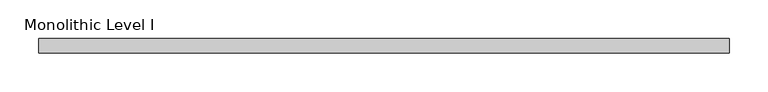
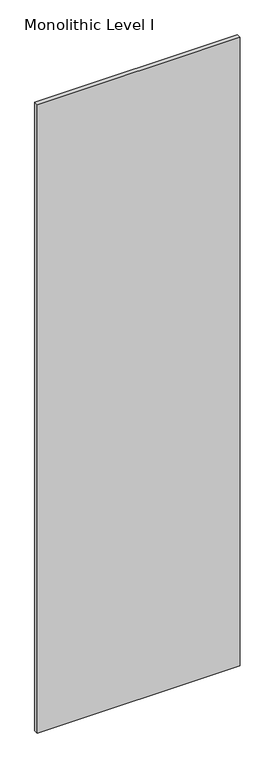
"""IFC4 building model written with IfcOpenShell, lengths in millimetres: proxy geometry, Panel-Fascia-Teknion-Altos-Standard : Monolithic Level I."""

from ifc_helpers import new_model, si_unit, frame, origin, place, context, project, spatial, polyline, outline, extrude, source, transform, mapped, element, save


def monolithic_level_i_6e13c29d(model_context):
    return source(origin(), model_context, "Body", "SweptSolid", [
        extrude(outline(polyline([(447.0300781, -9.525), (-447.0300781, -9.525), (-447.0300781, 9.525), (447.0300781, 9.525), (447.0300781, -9.525)])), frame((0.0, 0.0, 3.175), z_axis=(0.0, 0.0, 1.0), x_axis=(1.0, 0.0, 0.0)), (0.0, 0.0, 1.0), 2928.493),
    ])


if __name__ == "__main__":
    model = new_model("IFC4")
    model_context = context("Model", 3, world=origin())
    ifc_project = project(units=[si_unit("LENGTHUNIT", "METRE", prefix="MILLI")], contexts=[model_context])
    site = spatial("IfcSite", under=ifc_project)
    building = spatial("IfcBuilding", under=site)
    placement = place(None, origin())
    monolithic_level_i_shape = monolithic_level_i_6e13c29d(model_context)
    element("IfcBuildingElementProxy", 1, Name="Panel-Fascia-Teknion-Altos-Standard : Monolithic Level I", ObjectType="Panel-Fascia-Teknion-Altos-Standard : Monolithic Level I", at=placement, inside=building, context=model_context, shape_type="MappedRepresentation", body=[
        mapped(monolithic_level_i_shape, transform((0.0, 0.0, 0.0), x_axis=(1.0, 0.0, 0.0), y_axis=(0.0, 1.0, 0.0), z_axis=(0.0, 0.0, 1.0))),
    ])
    save(model, "model.ifc")
